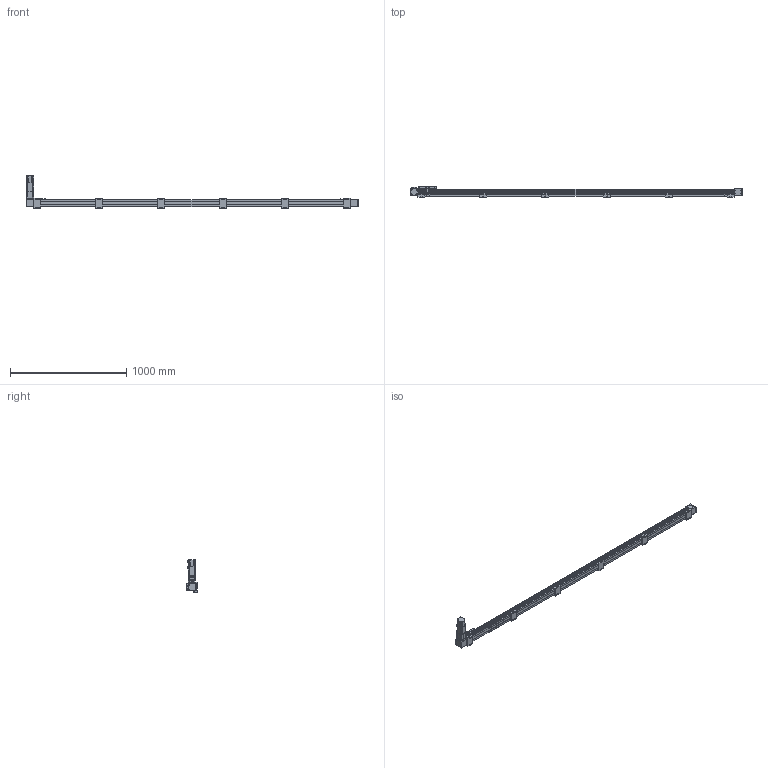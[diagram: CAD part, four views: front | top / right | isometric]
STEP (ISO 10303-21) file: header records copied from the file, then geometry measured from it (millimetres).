
FILE_DESCRIPTION(/* description */ ('STEP AP203'),/* implementation_level */ '2;1');
FILE_NAME(/* name */ 'SK60-P13-S2550-BL-T40-C1-N(0)',/* time_stamp */ '2023-04-06T03:38:03+02:00',/* author */ ('License CC BY-ND 4.0'),/* organization */ ('CADENAS'),/* preprocessor_version */ 'ST-DEVELOPER v19.3',/* originating_system */ 'PARTsolutions',/* authorisation */ ' ');
FILE_SCHEMA (('CONFIG_CONTROL_DESIGN'));
Length unit declared in the file: millimetre
Products named in the file (11): SK60-P13-S2550-BL-T40-C1-N(0); PSC140-sensor; SK60-S450_seat; SK60-S450-BL-C1_slider; SK60_body3; SK60_body6; SK60-BL_body2; T40-p1; SK60_body5; SK60_body4; SK60-S2550-BL-C1_body
Assembly tree (21 placements, depth 2):
  SK60-P13-S2550-BL-T40-C1-N(0)
    PSC140-sensor  x3
    SK60-S450_seat  x6
    SK60-S450-BL-C1_slider
    SK60_body3  x3
    SK60_body6  x2
    SK60-BL_body2  x2
    T40-p1
    SK60_body5
    SK60_body4
    SK60-S2550-BL-C1_body
Bounding box: 2850 x 90 x 278.2 mm (x, y, z)
Volume: 10319979.9 mm3; surface area: 1265073.6 mm2
Topology: 21 solids, 25 shells, 1010 faces, 2501 edges, 1650 vertices
Faces by surface type: plane 640, cylinder 330, cone 38, torus 2
Full cylindrical faces by diameter (mm): 2.8 x3, 3.3 x4, 4.2 x8, 4.5 x26, 4.6 x3, 4.917 x32, 5 x2, 5.478 x4, 5.5 x35, 6.5 x12, 8 x4, 8.5 x4, 9.988 x4, 10 x24, 13.556 x1, 14 x1, 14.586 x1, 19.692 x1, 38.432 x2, 43 x1, 44 x3, 47 x2, 50 x2
Entity records: 19403 total; most frequent: DIRECTION 3300, CARTESIAN_POINT 3293, ORIENTED_EDGE 3050, EDGE_CURVE 1525, AXIS2_PLACEMENT_3D 1104, LINE 1092, VECTOR 1092, VERTEX_POINT 1077
